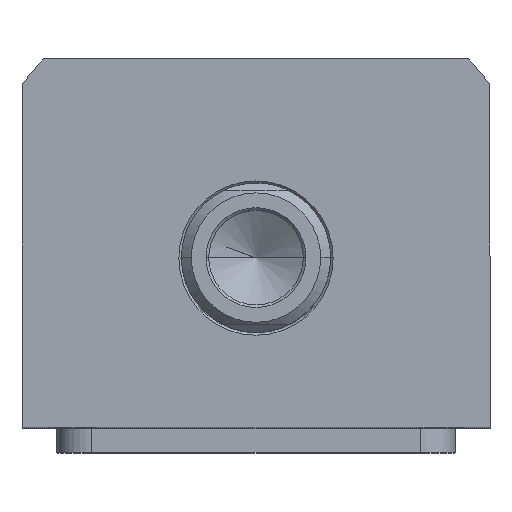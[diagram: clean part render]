
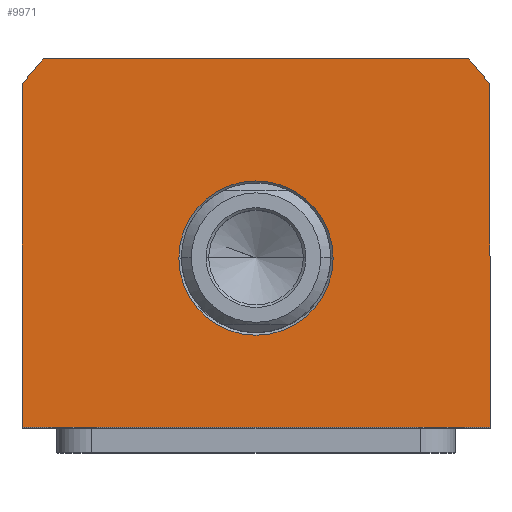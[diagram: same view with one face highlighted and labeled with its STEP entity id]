
A CAD part, top view. The second image highlights one B-rep face of the part: STEP entity #9971.
In plain terms, the highlighted planar face has unit normal (0, 0, 1).
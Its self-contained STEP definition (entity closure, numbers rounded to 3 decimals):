
#34 = CARTESIAN_POINT ( 'NONE',  ( -42.688, 40., 60. ) ) ;
#466 = FACE_OUTER_BOUND ( 'NONE', #4913, .T. ) ;
#694 = ORIENTED_EDGE ( 'NONE', *, *, #9300, .T. ) ;
#808 = VECTOR ( 'NONE', #2427, 1000. ) ;
#1057 = AXIS2_PLACEMENT_3D ( 'NONE', #11562, #8812, #9736 ) ;
#1151 = EDGE_CURVE ( 'NONE', #5492, #8935, #10144, .T. ) ;
#1310 = CARTESIAN_POINT ( 'NONE',  ( -47., -34., 60. ) ) ;
#1379 = LINE ( 'NONE', #6169, #8679 ) ;
#1553 = CIRCLE ( 'NONE', #9541, 58.5 ) ;
#1833 = DIRECTION ( 'NONE',  ( 1., 0., 0. ) ) ;
#2027 = DIRECTION ( 'NONE',  ( 1., 0., 0. ) ) ;
#2055 = ORIENTED_EDGE ( 'NONE', *, *, #3559, .T. ) ;
#2252 = DIRECTION ( 'NONE',  ( 1., 0., 0. ) ) ;
#2427 = DIRECTION ( 'NONE',  ( 0., 1., 0. ) ) ;
#2475 = EDGE_CURVE ( 'NONE', #6832, #3739, #2635, .T. ) ;
#2578 = DIRECTION ( 'NONE',  ( 1., 0., 0. ) ) ;
#2635 = CIRCLE ( 'NONE', #6964, 15.5 ) ;
#2698 = AXIS2_PLACEMENT_3D ( 'NONE', #4652, #5538, #2027 ) ;
#2807 = ORIENTED_EDGE ( 'NONE', *, *, #3636, .T. ) ;
#2927 = VECTOR ( 'NONE', #1833, 1000. ) ;
#2936 = VERTEX_POINT ( 'NONE', #34 ) ;
#3220 = EDGE_CURVE ( 'NONE', #3739, #6832, #11268, .T. ) ;
#3249 = CIRCLE ( 'NONE', #1057, 58.5 ) ;
#3464 = EDGE_CURVE ( 'NONE', #7921, #5497, #3249, .T. ) ;
#3502 = LINE ( 'NONE', #9082, #2927 ) ;
#3559 = EDGE_CURVE ( 'NONE', #5497, #2936, #1379, .T. ) ;
#3636 = EDGE_CURVE ( 'NONE', #9596, #7921, #4528, .T. ) ;
#3646 = ORIENTED_EDGE ( 'NONE', *, *, #1151, .T. ) ;
#3739 = VERTEX_POINT ( 'NONE', #9983 ) ;
#3917 = CARTESIAN_POINT ( 'NONE',  ( 0., 0., 60. ) ) ;
#4074 = CARTESIAN_POINT ( 'NONE',  ( 0., 0., 60. ) ) ;
#4463 = ORIENTED_EDGE ( 'NONE', *, *, #9232, .T. ) ;
#4528 = LINE ( 'NONE', #8863, #808 ) ;
#4640 = FACE_BOUND ( 'NONE', #7049, .T. ) ;
#4652 = CARTESIAN_POINT ( 'NONE',  ( 0., 0., 60. ) ) ;
#4903 = DIRECTION ( 'NONE',  ( 1., 0., 0. ) ) ;
#4913 = EDGE_LOOP ( 'NONE', ( #694, #2807, #6615, #2055, #4463, #3646 ) ) ;
#5388 = CARTESIAN_POINT ( 'NONE',  ( 0., 0., 60. ) ) ;
#5492 = VERTEX_POINT ( 'NONE', #10715 ) ;
#5497 = VERTEX_POINT ( 'NONE', #8023 ) ;
#5538 = DIRECTION ( 'NONE',  ( 0., 0., -1. ) ) ;
#5959 = ORIENTED_EDGE ( 'NONE', *, *, #3220, .T. ) ;
#6169 = CARTESIAN_POINT ( 'NONE',  ( -42.688, 40., 60. ) ) ;
#6489 = CARTESIAN_POINT ( 'NONE',  ( 15.5, 0., 60. ) ) ;
#6615 = ORIENTED_EDGE ( 'NONE', *, *, #3464, .T. ) ;
#6832 = VERTEX_POINT ( 'NONE', #6489 ) ;
#6964 = AXIS2_PLACEMENT_3D ( 'NONE', #3917, #8592, #4903 ) ;
#7049 = EDGE_LOOP ( 'NONE', ( #7571, #5959 ) ) ;
#7114 = DIRECTION ( 'NONE',  ( 0., 0., 1. ) ) ;
#7571 = ORIENTED_EDGE ( 'NONE', *, *, #2475, .T. ) ;
#7865 = AXIS2_PLACEMENT_3D ( 'NONE', #4074, #10496, #2252 ) ;
#7921 = VERTEX_POINT ( 'NONE', #11338 ) ;
#8023 = CARTESIAN_POINT ( 'NONE',  ( 42.688, 40., 60. ) ) ;
#8592 = DIRECTION ( 'NONE',  ( 0., 0., -1. ) ) ;
#8679 = VECTOR ( 'NONE', #10764, 1000. ) ;
#8812 = DIRECTION ( 'NONE',  ( 0., 0., 1. ) ) ;
#8863 = CARTESIAN_POINT ( 'NONE',  ( 47., 34.832, 60. ) ) ;
#8935 = VERTEX_POINT ( 'NONE', #9324 ) ;
#9004 = VECTOR ( 'NONE', #9476, 1000. ) ;
#9082 = CARTESIAN_POINT ( 'NONE',  ( 47., -34., 60. ) ) ;
#9232 = EDGE_CURVE ( 'NONE', #2936, #5492, #1553, .T. ) ;
#9300 = EDGE_CURVE ( 'NONE', #8935, #9596, #3502, .T. ) ;
#9324 = CARTESIAN_POINT ( 'NONE',  ( -47., -34., 60. ) ) ;
#9476 = DIRECTION ( 'NONE',  ( 0., -1., 0. ) ) ;
#9541 = AXIS2_PLACEMENT_3D ( 'NONE', #5388, #7114, #2578 ) ;
#9596 = VERTEX_POINT ( 'NONE', #9784 ) ;
#9736 = DIRECTION ( 'NONE',  ( 1., 0., 0. ) ) ;
#9784 = CARTESIAN_POINT ( 'NONE',  ( 47., -34., 60. ) ) ;
#9971 = ADVANCED_FACE ( 'NONE', ( #4640, #466 ), #10380, .T. ) ;
#9983 = CARTESIAN_POINT ( 'NONE',  ( -15.5, 0., 60. ) ) ;
#10144 = LINE ( 'NONE', #1310, #9004 ) ;
#10380 = PLANE ( 'NONE',  #7865 ) ;
#10496 = DIRECTION ( 'NONE',  ( 0., 0., 1. ) ) ;
#10715 = CARTESIAN_POINT ( 'NONE',  ( -47., 34.832, 60. ) ) ;
#10764 = DIRECTION ( 'NONE',  ( -1., 0., 0. ) ) ;
#11268 = CIRCLE ( 'NONE', #2698, 15.5 ) ;
#11338 = CARTESIAN_POINT ( 'NONE',  ( 47., 34.832, 60. ) ) ;
#11562 = CARTESIAN_POINT ( 'NONE',  ( 0., 0., 60. ) ) ;
